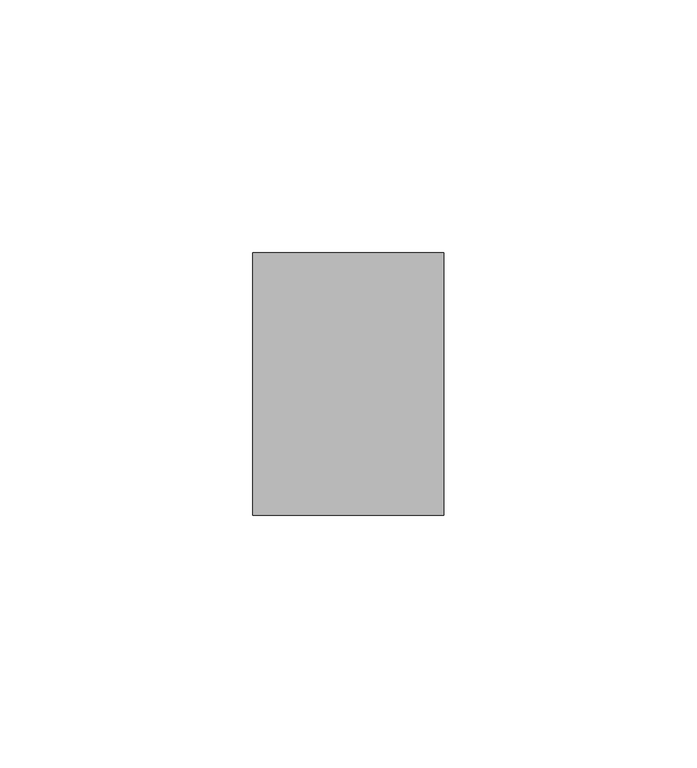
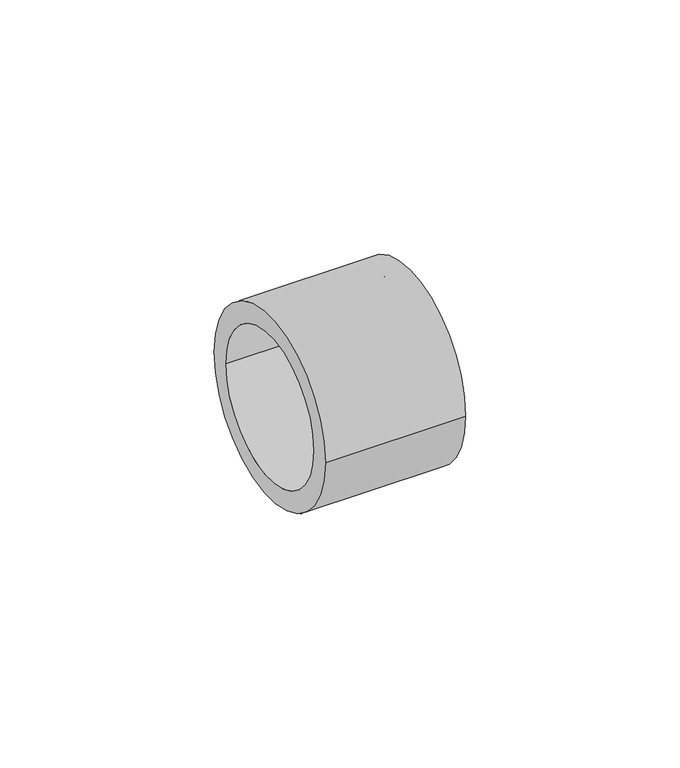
"""IFC4 building model written with IfcOpenShell, lengths in millimetres: pipe fitting geometry, RAUTITAN_Sleeve PX : RTI S PX."""

from ifc_helpers import new_model, si_unit, point, frame, origin, origin_2d, place, context, project, spatial, circle_curve, trimmed, segment, composite_curve, outline, extrude, source, transform, mapped, element, save


def pipe_fitting_d8f8e9d9(model_context):
    return source(origin(), model_context, "Body", "SweptSolid", [
        extrude(outline(composite_curve([segment(trimmed(circle_curve(origin_2d(), 25.95), [point((-25.95, 0.0))], [point((25.95, 0.0))], False, "CARTESIAN"), True, "CONTINUOUS"), segment(trimmed(circle_curve(origin_2d(), 25.95), [point((25.95, 0.0))], [point((-25.95, 0.0))], False, "CARTESIAN"), True, "CONTINUOUS")], self_intersect=False), holes=[composite_curve([segment(trimmed(circle_curve(origin_2d(), 20.45), [point((-20.45, 0.0))], [point((20.45, 0.0))], True, "CARTESIAN"), True, "CONTINUOUS"), segment(trimmed(circle_curve(origin_2d(), 20.45), [point((20.45, 0.0))], [point((-20.45, 0.0))], True, "CARTESIAN"), True, "CONTINUOUS")], self_intersect=False)]), frame((0.0, 0.0, 0.0), z_axis=(1.0, 0.0, 0.0), x_axis=(0.0, 1.0, 0.0)), (0.0, 0.0, 1.0), 37.8),
    ])


if __name__ == "__main__":
    model = new_model("IFC4")
    model_context = context("Model", 3, world=origin())
    ifc_project = project(units=[si_unit("LENGTHUNIT", "METRE", prefix="MILLI")], contexts=[model_context])
    site = spatial("IfcSite", under=ifc_project)
    building = spatial("IfcBuilding", under=site)
    placement = place(None, origin())
    pipe_fitting_shape = pipe_fitting_d8f8e9d9(model_context)
    element("IfcPipeFitting", 1, ObjectType="RAUTITAN_Sleeve PX : RTI S PX", at=placement, inside=building, context=model_context, shape_type="MappedRepresentation", body=[
        mapped(pipe_fitting_shape, transform((0.0, 0.0, 0.0), x_axis=(1.0, 0.0, 0.0), y_axis=(0.0, 1.0, 0.0), z_axis=(0.0, 0.0, 1.0))),
    ])
    save(model, "model.ifc")
